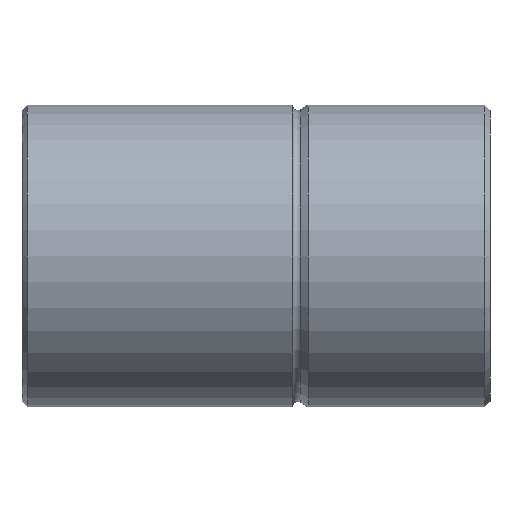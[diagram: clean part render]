
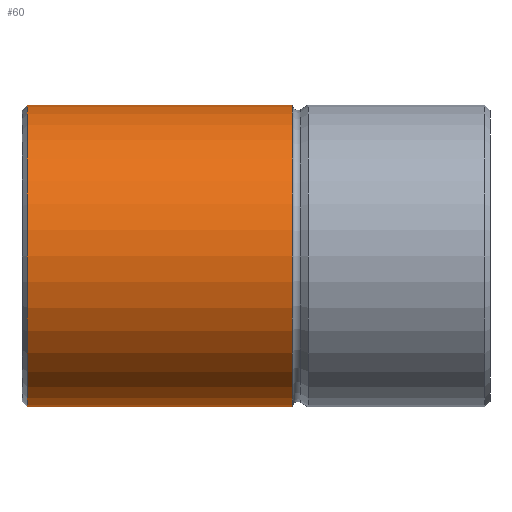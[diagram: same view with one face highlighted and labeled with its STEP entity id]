
A CAD part, front view. The second image highlights one B-rep face of the part: STEP entity #60.
In plain terms, the highlighted cylindrical face has radius 29.02 mm (diameter 58.04 mm), a full revolution.
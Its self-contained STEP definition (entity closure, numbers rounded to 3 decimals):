
#60 = ADVANCED_FACE( '', ( #130, #131, #132 ), #133, .T. );
#130 = FACE_OUTER_BOUND( '', #203, .T. );
#131 = FACE_BOUND( '', #204, .T. );
#132 = FACE_OUTER_BOUND( '', #205, .T. );
#133 = CYLINDRICAL_SURFACE( '', #206, 29.02 );
#203 = EDGE_LOOP( '', ( #290 ) );
#204 = EDGE_LOOP( '', ( #291 ) );
#205 = EDGE_LOOP( '', ( #292 ) );
#206 = AXIS2_PLACEMENT_3D( '', #293, #294, #295 );
#290 = ORIENTED_EDGE( '', *, *, #328, .T. );
#291 = ORIENTED_EDGE( '', *, *, #340, .T. );
#292 = ORIENTED_EDGE( '', *, *, #331, .F. );
#293 = CARTESIAN_POINT( '', ( 0., 0., 0. ) );
#294 = DIRECTION( '', ( -1., 0., 0. ) );
#295 = DIRECTION( '', ( 0., 0., -1. ) );
#328 = EDGE_CURVE( '', #362, #362, #363, .T. );
#331 = EDGE_CURVE( '', #367, #367, #368, .T. );
#340 = EDGE_CURVE( '', #382, #382, #383, .T. );
#362 = VERTEX_POINT( '', #412 );
#363 = CIRCLE( '', #413, 29.02 );
#367 = VERTEX_POINT( '', #417 );
#368 = CIRCLE( '', #418, 29.02 );
#382 = VERTEX_POINT( '', #432 );
#383 = B_SPLINE_CURVE_WITH_KNOTS( '', 3, ( #433, #434, #435, #436, #437, #438, #439, #440, #441, #442, #443, #444, #445, #446, #447, #448, #449, #450, #451, #452, #453, #454, #455, #456, #457, #458, #459, #460, #461, #462, #463, #464, #465, #466, #467, #468, #469, #470, #471, #472, #473, #474, #475, #476, #477, #478, #479, #480, #481, #482, #483, #484, #485, #486, #487, #488, #489, #490, #491, #492, #493, #494, #495, #496 ), .UNSPECIFIED., .T., .F., ( 2, 2, 2, 2, 2, 2, 2, 2, 2, 2, 2, 2, 2, 2, 2, 2, 2, 2, 2, 2, 2, 2, 2, 2, 2, 2, 2, 2, 2, 2, 2, 2, 2, 2 ), ( -0.001, 0., 0., 0.001, 0.001, 0.002, 0.002, 0.003, 0.003, 0.004, 0.004, 0.005, 0.005, 0.006, 0.006, 0.007, 0.007, 0.008, 0.008, 0.009, 0.009, 0.01, 0.01, 0.011, 0.011, 0.012, 0.012, 0.013, 0.013, 0.014, 0.014, 0.015, 0.016, 0.016 ), .UNSPECIFIED. );
#412 = CARTESIAN_POINT( '', ( -89., 0., -29.02 ) );
#413 = AXIS2_PLACEMENT_3D( '', #574, #575, #576 );
#417 = CARTESIAN_POINT( '', ( -38., 0., -29.02 ) );
#418 = AXIS2_PLACEMENT_3D( '', #580, #581, #582 );
#432 = CARTESIAN_POINT( '', ( -80., 28.912, -2.5 ) );
#433 = CARTESIAN_POINT( '', ( -80.33, 28.912, -2.5 ) );
#434 = CARTESIAN_POINT( '', ( -79.835, 28.912, -2.5 ) );
#435 = CARTESIAN_POINT( '', ( -79.672, 28.914, -2.484 ) );
#436 = CARTESIAN_POINT( '', ( -79.353, 28.919, -2.42 ) );
#437 = CARTESIAN_POINT( '', ( -79.194, 28.923, -2.372 ) );
#438 = CARTESIAN_POINT( '', ( -78.891, 28.933, -2.247 ) );
#439 = CARTESIAN_POINT( '', ( -78.748, 28.939, -2.17 ) );
#440 = CARTESIAN_POINT( '', ( -78.476, 28.952, -1.988 ) );
#441 = CARTESIAN_POINT( '', ( -78.347, 28.959, -1.883 ) );
#442 = CARTESIAN_POINT( '', ( -78.117, 28.973, -1.652 ) );
#443 = CARTESIAN_POINT( '', ( -78.013, 28.98, -1.527 ) );
#444 = CARTESIAN_POINT( '', ( -77.831, 28.993, -1.253 ) );
#445 = CARTESIAN_POINT( '', ( -77.753, 28.999, -1.108 ) );
#446 = CARTESIAN_POINT( '', ( -77.628, 29.009, -0.807 ) );
#447 = CARTESIAN_POINT( '', ( -77.58, 29.013, -0.649 ) );
#448 = CARTESIAN_POINT( '', ( -77.516, 29.019, -0.327 ) );
#449 = CARTESIAN_POINT( '', ( -77.5, 29.02, -0.164 ) );
#450 = CARTESIAN_POINT( '', ( -77.5, 29.02, 0.162 ) );
#451 = CARTESIAN_POINT( '', ( -77.516, 29.019, 0.327 ) );
#452 = CARTESIAN_POINT( '', ( -77.58, 29.013, 0.648 ) );
#453 = CARTESIAN_POINT( '', ( -77.627, 29.009, 0.804 ) );
#454 = CARTESIAN_POINT( '', ( -77.752, 28.999, 1.107 ) );
#455 = CARTESIAN_POINT( '', ( -77.831, 28.993, 1.253 ) );
#456 = CARTESIAN_POINT( '', ( -78.012, 28.98, 1.524 ) );
#457 = CARTESIAN_POINT( '', ( -78.115, 28.973, 1.65 ) );
#458 = CARTESIAN_POINT( '', ( -78.348, 28.959, 1.884 ) );
#459 = CARTESIAN_POINT( '', ( -78.474, 28.952, 1.987 ) );
#460 = CARTESIAN_POINT( '', ( -78.745, 28.939, 2.168 ) );
#461 = CARTESIAN_POINT( '', ( -78.891, 28.933, 2.247 ) );
#462 = CARTESIAN_POINT( '', ( -79.194, 28.923, 2.372 ) );
#463 = CARTESIAN_POINT( '', ( -79.35, 28.919, 2.419 ) );
#464 = CARTESIAN_POINT( '', ( -79.67, 28.914, 2.484 ) );
#465 = CARTESIAN_POINT( '', ( -79.836, 28.912, 2.5 ) );
#466 = CARTESIAN_POINT( '', ( -80.162, 28.912, 2.5 ) );
#467 = CARTESIAN_POINT( '', ( -80.325, 28.913, 2.484 ) );
#468 = CARTESIAN_POINT( '', ( -80.647, 28.919, 2.42 ) );
#469 = CARTESIAN_POINT( '', ( -80.805, 28.923, 2.372 ) );
#470 = CARTESIAN_POINT( '', ( -81.106, 28.933, 2.248 ) );
#471 = CARTESIAN_POINT( '', ( -81.251, 28.939, 2.171 ) );
#472 = CARTESIAN_POINT( '', ( -81.525, 28.952, 1.988 ) );
#473 = CARTESIAN_POINT( '', ( -81.651, 28.959, 1.885 ) );
#474 = CARTESIAN_POINT( '', ( -81.881, 28.973, 1.654 ) );
#475 = CARTESIAN_POINT( '', ( -81.987, 28.98, 1.526 ) );
#476 = CARTESIAN_POINT( '', ( -82.169, 28.993, 1.254 ) );
#477 = CARTESIAN_POINT( '', ( -82.246, 28.999, 1.111 ) );
#478 = CARTESIAN_POINT( '', ( -82.371, 29.009, 0.808 ) );
#479 = CARTESIAN_POINT( '', ( -82.42, 29.013, 0.649 ) );
#480 = CARTESIAN_POINT( '', ( -82.483, 29.019, 0.33 ) );
#481 = CARTESIAN_POINT( '', ( -82.5, 29.02, 0.168 ) );
#482 = CARTESIAN_POINT( '', ( -82.5, 29.02, -0.163 ) );
#483 = CARTESIAN_POINT( '', ( -82.484, 29.019, -0.326 ) );
#484 = CARTESIAN_POINT( '', ( -82.421, 29.013, -0.645 ) );
#485 = CARTESIAN_POINT( '', ( -82.373, 29.009, -0.804 ) );
#486 = CARTESIAN_POINT( '', ( -82.248, 28.999, -1.107 ) );
#487 = CARTESIAN_POINT( '', ( -82.171, 28.993, -1.251 ) );
#488 = CARTESIAN_POINT( '', ( -81.99, 28.98, -1.522 ) );
#489 = CARTESIAN_POINT( '', ( -81.884, 28.973, -1.651 ) );
#490 = CARTESIAN_POINT( '', ( -81.654, 28.959, -1.882 ) );
#491 = CARTESIAN_POINT( '', ( -81.528, 28.952, -1.985 ) );
#492 = CARTESIAN_POINT( '', ( -81.255, 28.939, -2.168 ) );
#493 = CARTESIAN_POINT( '', ( -81.11, 28.933, -2.246 ) );
#494 = CARTESIAN_POINT( '', ( -80.659, 28.918, -2.434 ) );
#495 = CARTESIAN_POINT( '', ( -80.33, 28.912, -2.5 ) );
#496 = CARTESIAN_POINT( '', ( -79.835, 28.912, -2.5 ) );
#574 = CARTESIAN_POINT( '', ( -89., 0., 0. ) );
#575 = DIRECTION( '', ( 1., 0., 0. ) );
#576 = DIRECTION( '', ( 0., 0., -1. ) );
#580 = CARTESIAN_POINT( '', ( -38., 0., 0. ) );
#581 = DIRECTION( '', ( 1., 0., 0. ) );
#582 = DIRECTION( '', ( 0., 0., -1. ) );
